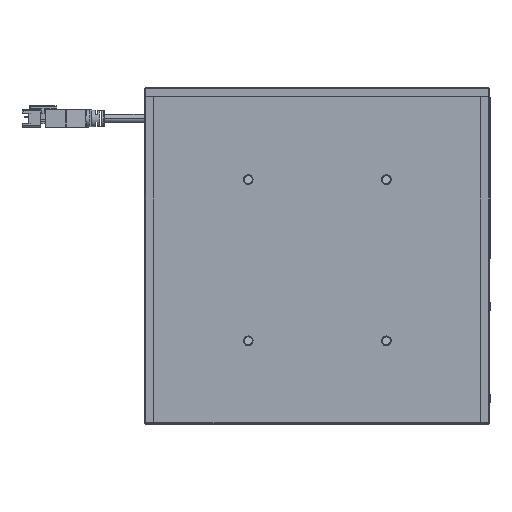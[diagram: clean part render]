
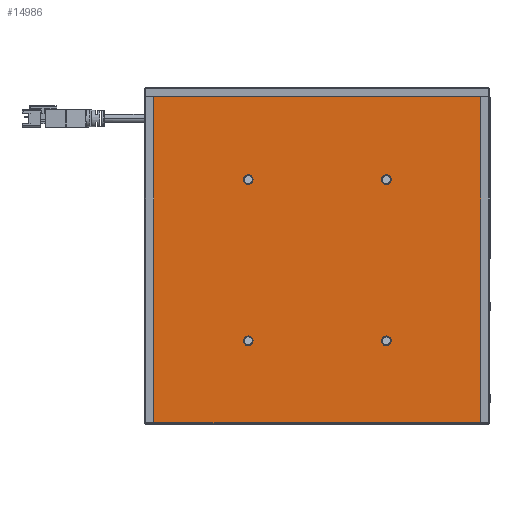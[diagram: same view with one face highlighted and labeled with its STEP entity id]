
A CAD part, top view. The second image highlights one B-rep face of the part: STEP entity #14986.
In plain terms, the highlighted planar face has unit normal (0, 0, 1).
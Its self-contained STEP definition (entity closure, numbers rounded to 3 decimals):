
#175 = DIRECTION ( 'NONE',  ( 0., 0., -1. ) ) ;
#306 = DIRECTION ( 'NONE',  ( 0., 0., -1. ) ) ;
#348 = CIRCLE ( 'NONE', #16687, 2.1 ) ;
#490 = DIRECTION ( 'NONE',  ( 0., 0., 1. ) ) ;
#523 = ORIENTED_EDGE ( 'NONE', *, *, #13480, .T. ) ;
#686 = VECTOR ( 'NONE', #6813, 1000. ) ;
#816 = EDGE_LOOP ( 'NONE', ( #24892, #23747 ) ) ;
#858 = DIRECTION ( 'NONE',  ( 0., -1., 0. ) ) ;
#1010 = VERTEX_POINT ( 'NONE', #4797 ) ;
#1200 = DIRECTION ( 'NONE',  ( 0., 0., -1. ) ) ;
#1356 = EDGE_LOOP ( 'NONE', ( #17124, #1881, #15013, #24155 ) ) ;
#1392 = AXIS2_PLACEMENT_3D ( 'NONE', #9726, #23943, #17814 ) ;
#1813 = EDGE_LOOP ( 'NONE', ( #12868, #19862 ) ) ;
#1867 = CARTESIAN_POINT ( 'NONE',  ( -71., 1., 94. ) ) ;
#1881 = ORIENTED_EDGE ( 'NONE', *, *, #11130, .T. ) ;
#1926 = FACE_BOUND ( 'NONE', #14226, .T. ) ;
#1932 = DIRECTION ( 'NONE',  ( 0., -1., 0. ) ) ;
#2012 = DIRECTION ( 'NONE',  ( 0., 0., -1. ) ) ;
#3144 = CIRCLE ( 'NONE', #10304, 2.1 ) ;
#3231 = LINE ( 'NONE', #21998, #15154 ) ;
#3309 = AXIS2_PLACEMENT_3D ( 'NONE', #22955, #1200, #858 ) ;
#3865 = DIRECTION ( 'NONE',  ( 0., -1., 0. ) ) ;
#3889 = EDGE_CURVE ( 'NONE', #14912, #18536, #24589, .T. ) ;
#3939 = CIRCLE ( 'NONE', #25294, 2.1 ) ;
#4797 = CARTESIAN_POINT ( 'NONE',  ( 30., -32.9, 94. ) ) ;
#4897 = VECTOR ( 'NONE', #22174, 1000. ) ;
#4947 = CARTESIAN_POINT ( 'NONE',  ( 71., -140.5, 94. ) ) ;
#4988 = VERTEX_POINT ( 'NONE', #25540 ) ;
#5094 = ORIENTED_EDGE ( 'NONE', *, *, #21417, .T. ) ;
#5167 = VERTEX_POINT ( 'NONE', #1867 ) ;
#5409 = VERTEX_POINT ( 'NONE', #6123 ) ;
#5441 = ORIENTED_EDGE ( 'NONE', *, *, #11488, .T. ) ;
#5451 = CARTESIAN_POINT ( 'NONE',  ( 30., -107.1, 94. ) ) ;
#5797 = CARTESIAN_POINT ( 'NONE',  ( -30., -105., 94. ) ) ;
#5892 = ORIENTED_EDGE ( 'NONE', *, *, #6920, .T. ) ;
#6027 = DIRECTION ( 'NONE',  ( 0., -1., 0. ) ) ;
#6123 = CARTESIAN_POINT ( 'NONE',  ( -30., -107.1, 94. ) ) ;
#6260 = CARTESIAN_POINT ( 'NONE',  ( 0., -70., 94. ) ) ;
#6735 = VERTEX_POINT ( 'NONE', #12041 ) ;
#6813 = DIRECTION ( 'NONE',  ( 1., 0., 0. ) ) ;
#6920 = EDGE_CURVE ( 'NONE', #5409, #6735, #3939, .T. ) ;
#7222 = CIRCLE ( 'NONE', #20158, 2.1 ) ;
#7457 = VERTEX_POINT ( 'NONE', #18252 ) ;
#7777 = EDGE_CURVE ( 'NONE', #18536, #14912, #21244, .T. ) ;
#7859 = DIRECTION ( 'NONE',  ( 0., -1., 0. ) ) ;
#8101 = CARTESIAN_POINT ( 'NONE',  ( -30., -32.9, 94. ) ) ;
#8425 = CARTESIAN_POINT ( 'NONE',  ( -30., -35., 94. ) ) ;
#8628 = EDGE_LOOP ( 'NONE', ( #5892, #5094 ) ) ;
#9201 = VECTOR ( 'NONE', #17505, 1000. ) ;
#9349 = CIRCLE ( 'NONE', #18637, 2.1 ) ;
#9726 = CARTESIAN_POINT ( 'NONE',  ( 30., -105., 94. ) ) ;
#9795 = VERTEX_POINT ( 'NONE', #10127 ) ;
#10127 = CARTESIAN_POINT ( 'NONE',  ( 30., -37.1, 94. ) ) ;
#10239 = LINE ( 'NONE', #14043, #4897 ) ;
#10304 = AXIS2_PLACEMENT_3D ( 'NONE', #14089, #306, #14349 ) ;
#10520 = DIRECTION ( 'NONE',  ( 0., 0., -1. ) ) ;
#10995 = EDGE_CURVE ( 'NONE', #5167, #7457, #3231, .T. ) ;
#11130 = EDGE_CURVE ( 'NONE', #7457, #12319, #25893, .T. ) ;
#11374 = FACE_BOUND ( 'NONE', #1813, .T. ) ;
#11488 = EDGE_CURVE ( 'NONE', #9795, #1010, #348, .T. ) ;
#11813 = VERTEX_POINT ( 'NONE', #17568 ) ;
#11933 = CARTESIAN_POINT ( 'NONE',  ( -30., -105., 94. ) ) ;
#11991 = LINE ( 'NONE', #19555, #9201 ) ;
#12041 = CARTESIAN_POINT ( 'NONE',  ( -30., -102.9, 94. ) ) ;
#12122 = CIRCLE ( 'NONE', #13750, 2.1 ) ;
#12181 = CARTESIAN_POINT ( 'NONE',  ( 30., -35., 94. ) ) ;
#12319 = VERTEX_POINT ( 'NONE', #4947 ) ;
#12329 = DIRECTION ( 'NONE',  ( 0., 0., -1. ) ) ;
#12400 = AXIS2_PLACEMENT_3D ( 'NONE', #6260, #490, #18413 ) ;
#12868 = ORIENTED_EDGE ( 'NONE', *, *, #22785, .T. ) ;
#13480 = EDGE_CURVE ( 'NONE', #1010, #9795, #7222, .T. ) ;
#13750 = AXIS2_PLACEMENT_3D ( 'NONE', #11933, #2012, #6027 ) ;
#14043 = CARTESIAN_POINT ( 'NONE',  ( 0., 1., 94. ) ) ;
#14089 = CARTESIAN_POINT ( 'NONE',  ( -30., -35., 94. ) ) ;
#14226 = EDGE_LOOP ( 'NONE', ( #5441, #523 ) ) ;
#14349 = DIRECTION ( 'NONE',  ( 0., -1., 0. ) ) ;
#14652 = DIRECTION ( 'NONE',  ( 0., -1., 0. ) ) ;
#14912 = VERTEX_POINT ( 'NONE', #5451 ) ;
#14986 = ADVANCED_FACE ( 'NONE', ( #20020, #23049, #1926, #11374, #18264 ), #18231, .T. ) ;
#15013 = ORIENTED_EDGE ( 'NONE', *, *, #15726, .T. ) ;
#15154 = VECTOR ( 'NONE', #3865, 1000. ) ;
#15726 = EDGE_CURVE ( 'NONE', #12319, #4988, #11991, .T. ) ;
#16206 = CARTESIAN_POINT ( 'NONE',  ( 30., -35., 94. ) ) ;
#16687 = AXIS2_PLACEMENT_3D ( 'NONE', #12181, #175, #1932 ) ;
#16727 = CARTESIAN_POINT ( 'NONE',  ( 0., -140.5, 94. ) ) ;
#17124 = ORIENTED_EDGE ( 'NONE', *, *, #10995, .T. ) ;
#17505 = DIRECTION ( 'NONE',  ( 0., 1., 0. ) ) ;
#17568 = CARTESIAN_POINT ( 'NONE',  ( -30., -37.1, 94. ) ) ;
#17814 = DIRECTION ( 'NONE',  ( 0., -1., 0. ) ) ;
#18108 = EDGE_CURVE ( 'NONE', #22229, #11813, #3144, .T. ) ;
#18231 = PLANE ( 'NONE',  #12400 ) ;
#18233 = DIRECTION ( 'NONE',  ( 0., -1., 0. ) ) ;
#18252 = CARTESIAN_POINT ( 'NONE',  ( -71., -140.5, 94. ) ) ;
#18264 = FACE_OUTER_BOUND ( 'NONE', #1356, .T. ) ;
#18413 = DIRECTION ( 'NONE',  ( 1., 0., 0. ) ) ;
#18536 = VERTEX_POINT ( 'NONE', #20168 ) ;
#18637 = AXIS2_PLACEMENT_3D ( 'NONE', #8425, #10520, #14652 ) ;
#19555 = CARTESIAN_POINT ( 'NONE',  ( 71., -70., 94. ) ) ;
#19862 = ORIENTED_EDGE ( 'NONE', *, *, #18108, .T. ) ;
#19916 = DIRECTION ( 'NONE',  ( 0., 0., -1. ) ) ;
#20020 = FACE_BOUND ( 'NONE', #816, .T. ) ;
#20158 = AXIS2_PLACEMENT_3D ( 'NONE', #16206, #12329, #18233 ) ;
#20168 = CARTESIAN_POINT ( 'NONE',  ( 30., -102.9, 94. ) ) ;
#21244 = CIRCLE ( 'NONE', #1392, 2.1 ) ;
#21417 = EDGE_CURVE ( 'NONE', #6735, #5409, #12122, .T. ) ;
#21424 = EDGE_CURVE ( 'NONE', #4988, #5167, #10239, .T. ) ;
#21998 = CARTESIAN_POINT ( 'NONE',  ( -71., -70., 94. ) ) ;
#22174 = DIRECTION ( 'NONE',  ( -1., 0., 0. ) ) ;
#22229 = VERTEX_POINT ( 'NONE', #8101 ) ;
#22785 = EDGE_CURVE ( 'NONE', #11813, #22229, #9349, .T. ) ;
#22955 = CARTESIAN_POINT ( 'NONE',  ( 30., -105., 94. ) ) ;
#23049 = FACE_BOUND ( 'NONE', #8628, .T. ) ;
#23747 = ORIENTED_EDGE ( 'NONE', *, *, #7777, .T. ) ;
#23943 = DIRECTION ( 'NONE',  ( 0., 0., -1. ) ) ;
#24155 = ORIENTED_EDGE ( 'NONE', *, *, #21424, .T. ) ;
#24589 = CIRCLE ( 'NONE', #3309, 2.1 ) ;
#24892 = ORIENTED_EDGE ( 'NONE', *, *, #3889, .T. ) ;
#25294 = AXIS2_PLACEMENT_3D ( 'NONE', #5797, #19916, #7859 ) ;
#25540 = CARTESIAN_POINT ( 'NONE',  ( 71., 1., 94. ) ) ;
#25893 = LINE ( 'NONE', #16727, #686 ) ;
